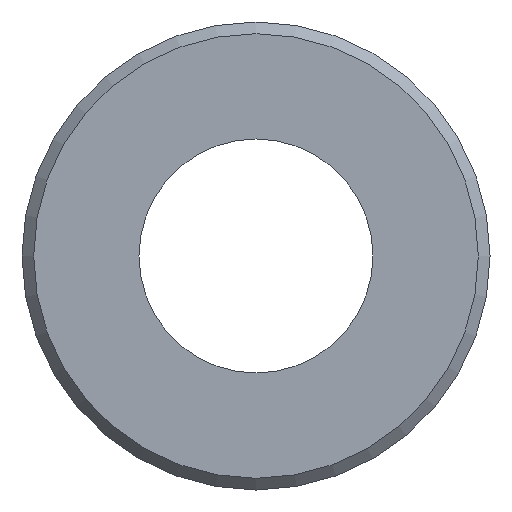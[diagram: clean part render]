
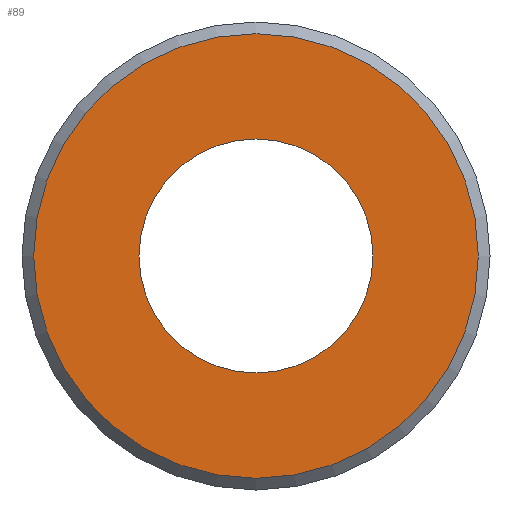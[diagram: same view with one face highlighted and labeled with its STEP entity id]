
A CAD part, front view. The second image highlights one B-rep face of the part: STEP entity #89.
In plain terms, the highlighted planar face has unit normal (0, -1, 0).
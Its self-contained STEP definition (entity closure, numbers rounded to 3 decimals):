
#15=FACE_BOUND('',#30,.T.);
#17=PLANE('',#112);
#23=FACE_OUTER_BOUND('',#29,.T.);
#29=EDGE_LOOP('',(#73));
#30=EDGE_LOOP('',(#74));
#44=CIRCLE('',#109,4.75);
#46=CIRCLE('',#113,2.5);
#50=VERTEX_POINT('',#153);
#52=VERTEX_POINT('',#161);
#57=EDGE_CURVE('',#50,#50,#44,.T.);
#60=EDGE_CURVE('',#52,#52,#46,.T.);
#73=ORIENTED_EDGE('',*,*,#57,.F.);
#74=ORIENTED_EDGE('',*,*,#60,.F.);
#89=ADVANCED_FACE('',(#23,#15),#17,.F.);
#109=AXIS2_PLACEMENT_3D('',#155,#126,#127);
#112=AXIS2_PLACEMENT_3D('',#160,#133,#134);
#113=AXIS2_PLACEMENT_3D('',#162,#135,#136);
#126=DIRECTION('center_axis',(0.,1.,0.));
#127=DIRECTION('ref_axis',(1.,0.,0.));
#133=DIRECTION('center_axis',(0.,1.,0.));
#134=DIRECTION('ref_axis',(1.,0.,0.));
#135=DIRECTION('center_axis',(0.,-1.,0.));
#136=DIRECTION('ref_axis',(1.,0.,0.));
#153=CARTESIAN_POINT('',(-4.75,0.,0.));
#155=CARTESIAN_POINT('Origin',(0.,0.,0.));
#160=CARTESIAN_POINT('Origin',(0.,0.,0.));
#161=CARTESIAN_POINT('',(-2.5,0.,0.));
#162=CARTESIAN_POINT('Origin',(0.,0.,0.));
